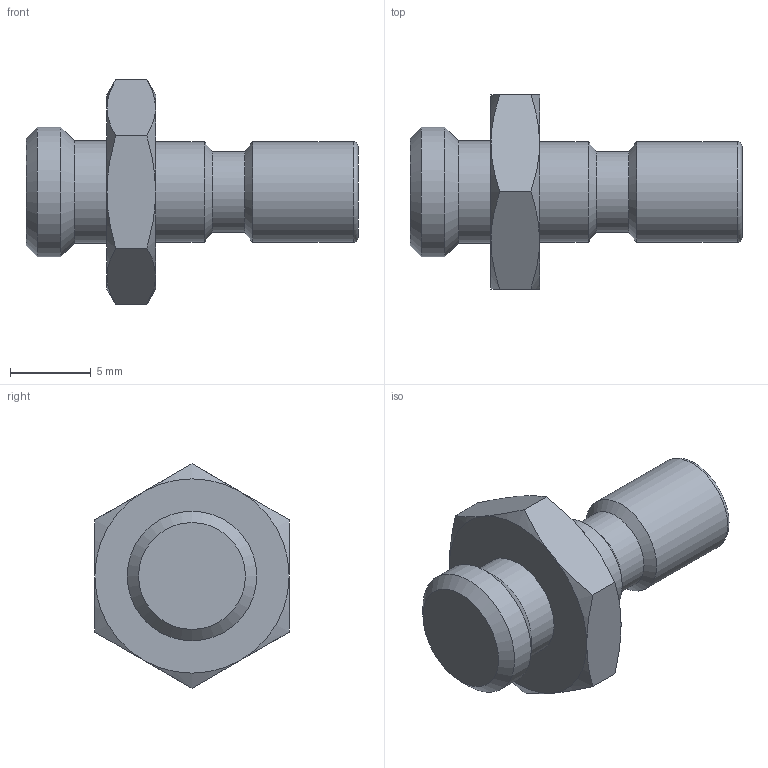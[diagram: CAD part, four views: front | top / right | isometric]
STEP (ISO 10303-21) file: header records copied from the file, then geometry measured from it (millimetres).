
FILE_DESCRIPTION(/* description */ (''),/* implementation_level */ '2;1');
FILE_NAME(/* name */ 'E:\2013年度版　3D-DATA\【20】 HI-COCK ONE-TOUCH COUPLING\[03] NIPPLE-1P\[01] MH-1P.stp',/* time_stamp */ '2013-08-05T15:27:36+09:00',/* author */ ('takahashi-pc2'),/* organization */ (''),/* preprocessor_version */ 'ST-DEVELOPER v15.2',/* originating_system */ 'Autodesk Inventor 2014',/* authorisation */ '');
FILE_SCHEMA (('AUTOMOTIVE_DESIGN { 1 0 10303 214 3 1 1 }'));
Length unit declared in the file: millimetre
Products named in the file (1): [01] MH-1P
Bounding box: 20.5 x 12 x 13.86 mm (x, y, z)
Volume: 919.7 mm3; surface area: 732.6 mm2
Topology: 1 solids, 1 shells, 32 faces, 65 edges, 37 vertices
Faces by surface type: cone 16, plane 10, cylinder 5, torus 1
Full cylindrical faces by diameter (mm): 5 x1, 6.2 x2, 6.3 x1, 8 x1
Entity records: 759 total; most frequent: CARTESIAN_POINT 171, DIRECTION 120, ORIENTED_EDGE 108, AXIS2_PLACEMENT_3D 57, EDGE_CURVE 54, EDGE_LOOP 44, VERTEX_POINT 36, ADVANCED_FACE 32
